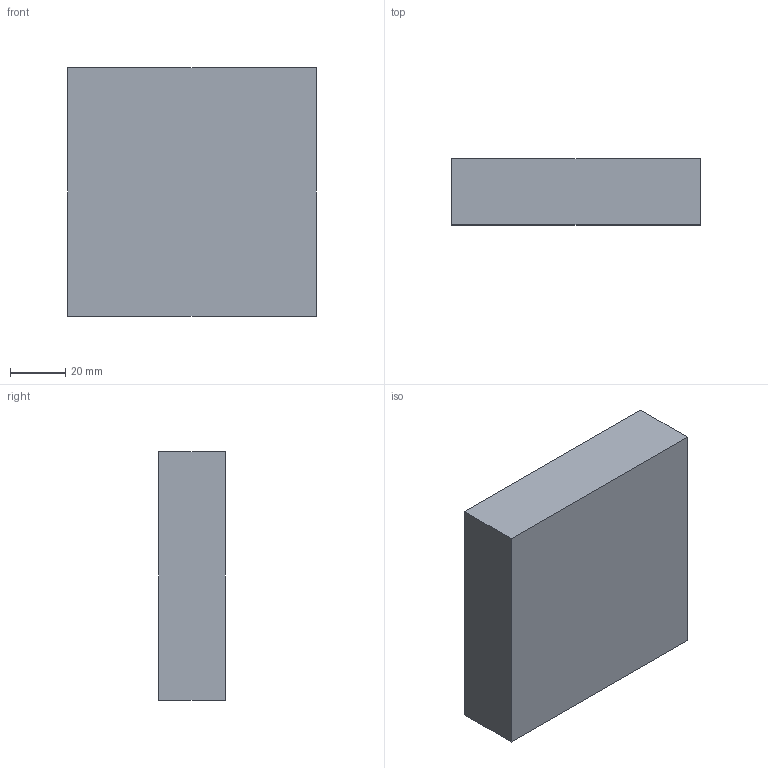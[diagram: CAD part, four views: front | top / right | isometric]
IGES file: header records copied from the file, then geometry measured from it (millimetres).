
Start section: SolidWorks IGES file using analytic representation for surfaces
Global section: file name: D:\3DS EMPRESA\ROKU-P34361-3D\ROKU-P34361-3D.IGS; native system: SolidWorks 2019; preprocessor: SolidWorks 2019; author: Carlos Corella; date: 210721.104349; units: millimetre
Bounding box: 90 x 24 x 90 mm (x, y, z)
Surface area: 25104 mm2 (no closed solid volume)
Topology: 0 solids, 0 shells, 11 faces, 48 edges, 48 vertices
Faces by surface type: bspline 11
